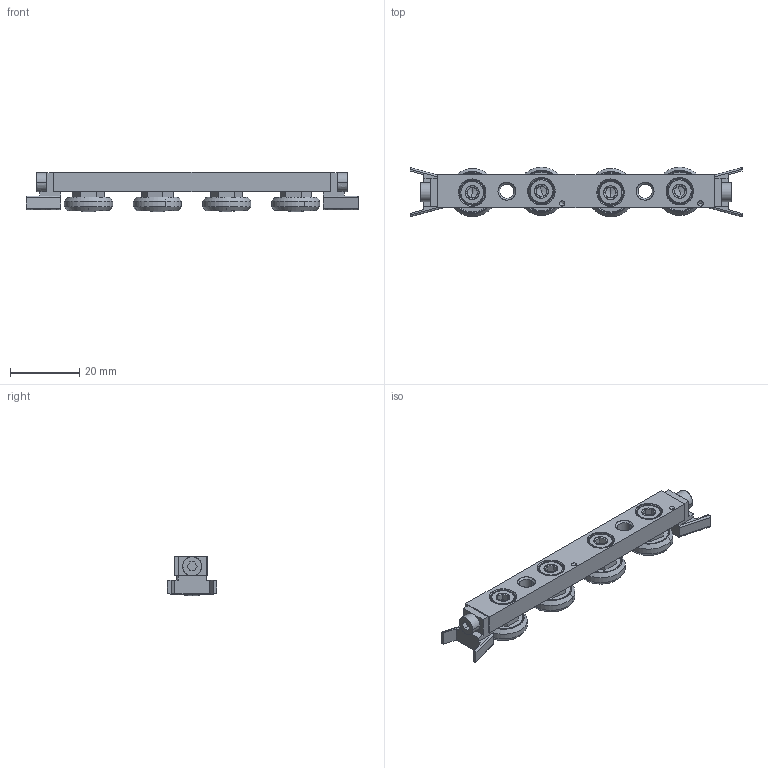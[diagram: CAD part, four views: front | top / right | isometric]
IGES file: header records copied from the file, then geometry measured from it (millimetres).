
Start section: SolidWorks IGES file using analytic representation for surfaces
Global section: file name: E:\J-00018 - L1918-L1963 LCompact Rail\L1918_v2\L1918.CSW18_v2\L1918.CSW18_IGES\L1918.CSW18-80-2RSUA.igs; native system: SolidWorks 2017; preprocessor: SolidWorks 2017; author: liam_; date: 190629.230415; units: millimetre
Bounding box: 96 x 14.33 x 11.54 mm (x, y, z)
Surface area: 7145 mm2 (no closed solid volume)
Topology: 0 solids, 0 shells, 390 faces, 5028 edges, 5006 vertices
Faces by surface type: bspline 212, revolution 178
